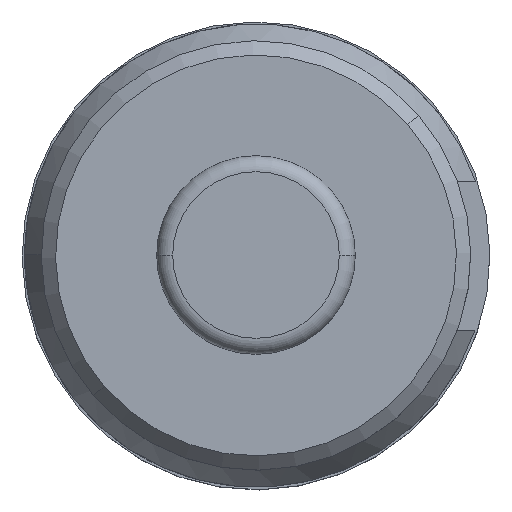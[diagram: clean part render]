
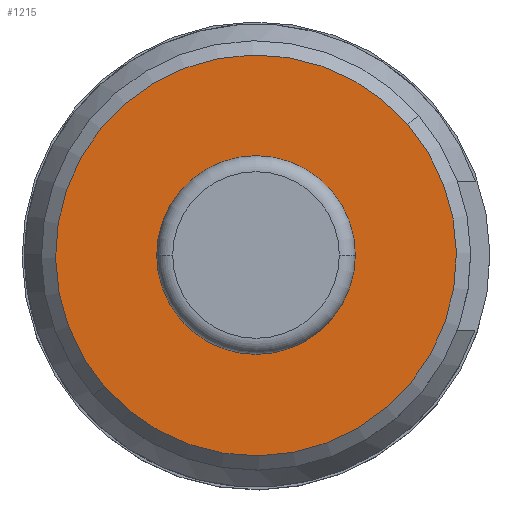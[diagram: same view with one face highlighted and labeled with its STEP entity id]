
A CAD part, top view. The second image highlights one B-rep face of the part: STEP entity #1215.
In plain terms, the highlighted planar face has unit normal (0, 0, 1).
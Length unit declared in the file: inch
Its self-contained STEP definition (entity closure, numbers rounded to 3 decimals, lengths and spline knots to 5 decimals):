
#39 = DIRECTION ( 'NONE',  ( 0., 0., 1. ) ) ;
#67 = EDGE_CURVE ( 'NONE', #160, #2053, #897, .T. ) ;
#102 = CARTESIAN_POINT ( 'NONE',  ( -0.09474, -0.08169, -0.04906 ) ) ;
#152 = FACE_BOUND ( 'NONE', #1773, .T. ) ;
#160 = VERTEX_POINT ( 'NONE', #2159 ) ;
#169 = DIRECTION ( 'NONE',  ( 0., 0., 1. ) ) ;
#184 = CIRCLE ( 'NONE', #227, 0.05475 ) ;
#227 = AXIS2_PLACEMENT_3D ( 'NONE', #1243, #169, #1419 ) ;
#243 = AXIS2_PLACEMENT_3D ( 'NONE', #1840, #771, #2013 ) ;
#456 = EDGE_CURVE ( 'NONE', #1446, #2279, #1934, .T. ) ;
#506 = AXIS2_PLACEMENT_3D ( 'NONE', #1107, #39, #922 ) ;
#511 = CARTESIAN_POINT ( 'NONE',  ( -0.05475, 0., -0.04906 ) ) ;
#543 = ORIENTED_EDGE ( 'NONE', *, *, #2226, .T. ) ;
#551 = AXIS2_PLACEMENT_3D ( 'NONE', #1876, #1680, #2229 ) ;
#754 = DIRECTION ( 'NONE',  ( 0., 0., -1. ) ) ;
#771 = DIRECTION ( 'NONE',  ( 0., 0., 1. ) ) ;
#897 = CIRCLE ( 'NONE', #551, 0.1251 ) ;
#922 = DIRECTION ( 'NONE',  ( -1., 0., 0. ) ) ;
#927 = DIRECTION ( 'NONE',  ( -1., 0., 0. ) ) ;
#939 = PLANE ( 'NONE',  #2021 ) ;
#1107 = CARTESIAN_POINT ( 'NONE',  ( 0., 0., -0.04906 ) ) ;
#1113 = FACE_OUTER_BOUND ( 'NONE', #2057, .T. ) ;
#1159 = CARTESIAN_POINT ( 'NONE',  ( 0.05475, 0., -0.04906 ) ) ;
#1215 = ADVANCED_FACE ( 'NONE', ( #1113, #152 ), #939, .F. ) ;
#1243 = CARTESIAN_POINT ( 'NONE',  ( 0., 0., -0.04906 ) ) ;
#1419 = DIRECTION ( 'NONE',  ( -1., 0., 0. ) ) ;
#1435 = EDGE_CURVE ( 'NONE', #2279, #1446, #184, .T. ) ;
#1446 = VERTEX_POINT ( 'NONE', #511 ) ;
#1528 = ORIENTED_EDGE ( 'NONE', *, *, #67, .T. ) ;
#1559 = ORIENTED_EDGE ( 'NONE', *, *, #456, .F. ) ;
#1680 = DIRECTION ( 'NONE',  ( 0., 0., 1. ) ) ;
#1773 = EDGE_LOOP ( 'NONE', ( #2170, #1559 ) ) ;
#1840 = CARTESIAN_POINT ( 'NONE',  ( 0., 0., -0.04906 ) ) ;
#1862 = CIRCLE ( 'NONE', #243, 0.1251 ) ;
#1876 = CARTESIAN_POINT ( 'NONE',  ( 0., 0., -0.04906 ) ) ;
#1934 = CIRCLE ( 'NONE', #506, 0.05475 ) ;
#1997 = CARTESIAN_POINT ( 'NONE',  ( 0., 0., -0.04906 ) ) ;
#2013 = DIRECTION ( 'NONE',  ( 0.757, 0.653, 0. ) ) ;
#2021 = AXIS2_PLACEMENT_3D ( 'NONE', #1997, #754, #927 ) ;
#2053 = VERTEX_POINT ( 'NONE', #102 ) ;
#2057 = EDGE_LOOP ( 'NONE', ( #543, #1528 ) ) ;
#2159 = CARTESIAN_POINT ( 'NONE',  ( 0.09474, 0.08169, -0.04906 ) ) ;
#2170 = ORIENTED_EDGE ( 'NONE', *, *, #1435, .F. ) ;
#2226 = EDGE_CURVE ( 'NONE', #2053, #160, #1862, .T. ) ;
#2229 = DIRECTION ( 'NONE',  ( 0.757, 0.653, 0. ) ) ;
#2279 = VERTEX_POINT ( 'NONE', #1159 ) ;
